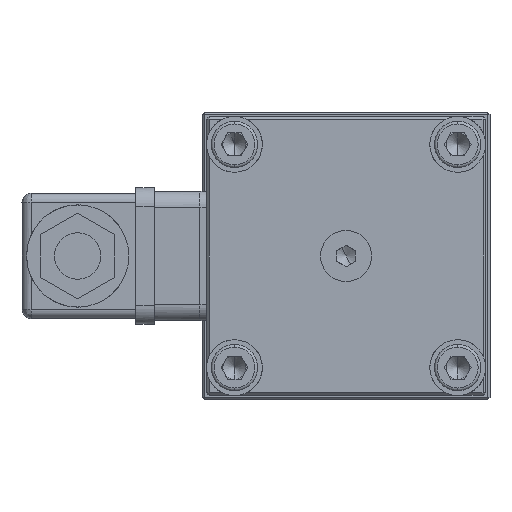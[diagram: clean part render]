
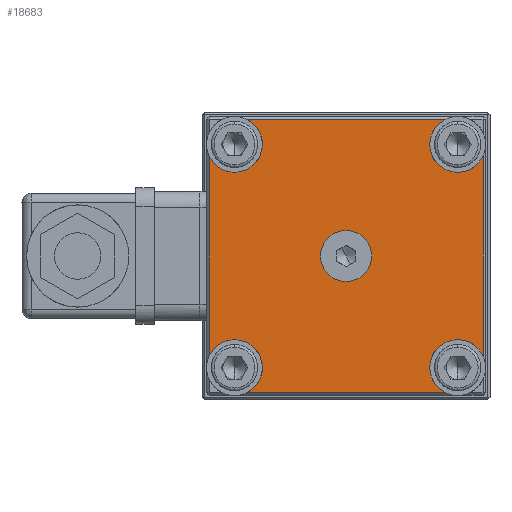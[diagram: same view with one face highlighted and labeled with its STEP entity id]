
A CAD part, left-side view. The second image highlights one B-rep face of the part: STEP entity #18683.
In plain terms, the highlighted planar face has unit normal (-1, 0, 0).
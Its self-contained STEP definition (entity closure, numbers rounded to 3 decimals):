
#25 = VERTEX_POINT ( 'NONE', #8928 ) ;
#187 = LINE ( 'NONE', #16267, #21332 ) ;
#210 = DIRECTION ( 'NONE',  ( 0., 0., -1. ) ) ;
#217 = CARTESIAN_POINT ( 'NONE',  ( -106.2, -24.04, 18.04 ) ) ;
#285 = CARTESIAN_POINT ( 'NONE',  ( -106.2, 24.04, 24.04 ) ) ;
#356 = ORIENTED_EDGE ( 'NONE', *, *, #21694, .T. ) ;
#649 = EDGE_CURVE ( 'NONE', #3649, #4505, #6441, .T. ) ;
#1730 = DIRECTION ( 'NONE',  ( 0., 0., 1. ) ) ;
#1840 = CARTESIAN_POINT ( 'NONE',  ( -106.2, 0., 0. ) ) ;
#2370 = ORIENTED_EDGE ( 'NONE', *, *, #19217, .T. ) ;
#2518 = DIRECTION ( 'NONE',  ( 1., 0., 0. ) ) ;
#2767 = VECTOR ( 'NONE', #14030, 1000. ) ;
#3153 = CARTESIAN_POINT ( 'NONE',  ( -106.2, 29.5, 21.552 ) ) ;
#3170 = EDGE_CURVE ( 'NONE', #4505, #20756, #12297, .T. ) ;
#3214 = EDGE_CURVE ( 'NONE', #3752, #18468, #17880, .T. ) ;
#3412 = AXIS2_PLACEMENT_3D ( 'NONE', #8630, #22681, #6894 ) ;
#3483 = DIRECTION ( 'NONE',  ( -1., 0., 0. ) ) ;
#3559 = AXIS2_PLACEMENT_3D ( 'NONE', #285, #16143, #7341 ) ;
#3649 = VERTEX_POINT ( 'NONE', #20442 ) ;
#3752 = VERTEX_POINT ( 'NONE', #10193 ) ;
#4019 = VERTEX_POINT ( 'NONE', #18275 ) ;
#4312 = ORIENTED_EDGE ( 'NONE', *, *, #13121, .T. ) ;
#4461 = ORIENTED_EDGE ( 'NONE', *, *, #21321, .F. ) ;
#4468 = CARTESIAN_POINT ( 'NONE',  ( -106.2, -24.04, -18.04 ) ) ;
#4505 = VERTEX_POINT ( 'NONE', #22247 ) ;
#4526 = DIRECTION ( 'NONE',  ( 0., 0., -1. ) ) ;
#4741 = ORIENTED_EDGE ( 'NONE', *, *, #3170, .T. ) ;
#5200 = CARTESIAN_POINT ( 'NONE',  ( -106.2, 24.04, 24.04 ) ) ;
#5323 = DIRECTION ( 'NONE',  ( 1., 0., 0. ) ) ;
#5557 = FACE_BOUND ( 'NONE', #13723, .T. ) ;
#5748 = CARTESIAN_POINT ( 'NONE',  ( -106.2, -24.04, 24.04 ) ) ;
#5875 = CARTESIAN_POINT ( 'NONE',  ( -106.2, -24.04, 24.04 ) ) ;
#5878 = CIRCLE ( 'NONE', #18058, 6. ) ;
#6072 = AXIS2_PLACEMENT_3D ( 'NONE', #11079, #21703, #18160 ) ;
#6441 = CIRCLE ( 'NONE', #6072, 6. ) ;
#6662 = ORIENTED_EDGE ( 'NONE', *, *, #19692, .T. ) ;
#6738 = CIRCLE ( 'NONE', #3412, 6. ) ;
#6837 = AXIS2_PLACEMENT_3D ( 'NONE', #19287, #3483, #1730 ) ;
#6894 = DIRECTION ( 'NONE',  ( 0., 0., -1. ) ) ;
#7183 = CARTESIAN_POINT ( 'NONE',  ( -106.2, -2.75, -4.763 ) ) ;
#7341 = DIRECTION ( 'NONE',  ( 0., 0., -1. ) ) ;
#7381 = DIRECTION ( 'NONE',  ( 0., 0., 1. ) ) ;
#7531 = CIRCLE ( 'NONE', #17487, 5.5 ) ;
#7648 = EDGE_CURVE ( 'NONE', #15779, #4019, #22204, .T. ) ;
#8136 = CARTESIAN_POINT ( 'NONE',  ( -106.2, 29.5, -21.552 ) ) ;
#8630 = CARTESIAN_POINT ( 'NONE',  ( -106.2, -24.04, -24.04 ) ) ;
#8907 = DIRECTION ( 'NONE',  ( -1., 0., 0. ) ) ;
#8928 = CARTESIAN_POINT ( 'NONE',  ( -106.2, 21.552, 29.5 ) ) ;
#9591 = CARTESIAN_POINT ( 'NONE',  ( -106.2, -21.552, -29.5 ) ) ;
#10071 = EDGE_LOOP ( 'NONE', ( #4741, #356, #10460, #6662, #16655, #10909, #4312, #16868, #2370, #20248, #19056, #11676 ) ) ;
#10193 = CARTESIAN_POINT ( 'NONE',  ( -106.2, -29.5, 21.552 ) ) ;
#10357 = DIRECTION ( 'NONE',  ( 0., 0., -1. ) ) ;
#10460 = ORIENTED_EDGE ( 'NONE', *, *, #16234, .T. ) ;
#10615 = DIRECTION ( 'NONE',  ( 1., 0., 0. ) ) ;
#10647 = CARTESIAN_POINT ( 'NONE',  ( -106.2, 0., 0. ) ) ;
#10759 = VECTOR ( 'NONE', #7381, 1000. ) ;
#10909 = ORIENTED_EDGE ( 'NONE', *, *, #13175, .T. ) ;
#11079 = CARTESIAN_POINT ( 'NONE',  ( -106.2, 24.04, -24.04 ) ) ;
#11298 = AXIS2_PLACEMENT_3D ( 'NONE', #5200, #5323, #20891 ) ;
#11448 = CARTESIAN_POINT ( 'NONE',  ( -106.2, 29.5, 29.5 ) ) ;
#11676 = ORIENTED_EDGE ( 'NONE', *, *, #649, .T. ) ;
#11794 = VERTEX_POINT ( 'NONE', #3153 ) ;
#12033 = CIRCLE ( 'NONE', #11298, 6. ) ;
#12297 = LINE ( 'NONE', #22675, #2767 ) ;
#12576 = FACE_OUTER_BOUND ( 'NONE', #10071, .T. ) ;
#12714 = AXIS2_PLACEMENT_3D ( 'NONE', #22441, #15577, #10357 ) ;
#13034 = LINE ( 'NONE', #14666, #10759 ) ;
#13121 = EDGE_CURVE ( 'NONE', #14211, #25, #187, .T. ) ;
#13175 = EDGE_CURVE ( 'NONE', #18468, #14211, #5878, .T. ) ;
#13251 = VERTEX_POINT ( 'NONE', #4468 ) ;
#13723 = EDGE_LOOP ( 'NONE', ( #4461, #15375 ) ) ;
#13887 = CARTESIAN_POINT ( 'NONE',  ( -106.2, -21.552, 29.5 ) ) ;
#14030 = DIRECTION ( 'NONE',  ( 0., -1., 0. ) ) ;
#14044 = DIRECTION ( 'NONE',  ( 0., 1., 0. ) ) ;
#14211 = VERTEX_POINT ( 'NONE', #13887 ) ;
#14225 = DIRECTION ( 'NONE',  ( 0., 0.5, 0.866 ) ) ;
#14553 = CIRCLE ( 'NONE', #17867, 6. ) ;
#14666 = CARTESIAN_POINT ( 'NONE',  ( -106.2, -29.5, -29.5 ) ) ;
#15375 = ORIENTED_EDGE ( 'NONE', *, *, #7648, .F. ) ;
#15577 = DIRECTION ( 'NONE',  ( 1., 0., 0. ) ) ;
#15779 = VERTEX_POINT ( 'NONE', #7183 ) ;
#15889 = VERTEX_POINT ( 'NONE', #16256 ) ;
#15970 = VERTEX_POINT ( 'NONE', #8136 ) ;
#16143 = DIRECTION ( 'NONE',  ( 1., 0., 0. ) ) ;
#16234 = EDGE_CURVE ( 'NONE', #13251, #21881, #6738, .T. ) ;
#16256 = CARTESIAN_POINT ( 'NONE',  ( -106.2, 24.04, 18.04 ) ) ;
#16267 = CARTESIAN_POINT ( 'NONE',  ( -106.2, -29.5, 29.5 ) ) ;
#16598 = DIRECTION ( 'NONE',  ( 1., 0., 0. ) ) ;
#16655 = ORIENTED_EDGE ( 'NONE', *, *, #3214, .T. ) ;
#16868 = ORIENTED_EDGE ( 'NONE', *, *, #22319, .T. ) ;
#17487 = AXIS2_PLACEMENT_3D ( 'NONE', #10647, #17706, #14225 ) ;
#17509 = AXIS2_PLACEMENT_3D ( 'NONE', #1840, #8907, #17917 ) ;
#17706 = DIRECTION ( 'NONE',  ( -1., 0., 0. ) ) ;
#17865 = DIRECTION ( 'NONE',  ( 0., 0., -1. ) ) ;
#17867 = AXIS2_PLACEMENT_3D ( 'NONE', #17905, #10615, #210 ) ;
#17880 = CIRCLE ( 'NONE', #22628, 6. ) ;
#17905 = CARTESIAN_POINT ( 'NONE',  ( -106.2, 24.04, -24.04 ) ) ;
#17917 = DIRECTION ( 'NONE',  ( 0., 0.5, 0.866 ) ) ;
#17961 = CIRCLE ( 'NONE', #3559, 6. ) ;
#18058 = AXIS2_PLACEMENT_3D ( 'NONE', #5875, #2518, #21653 ) ;
#18160 = DIRECTION ( 'NONE',  ( 0., 0., -1. ) ) ;
#18275 = CARTESIAN_POINT ( 'NONE',  ( -106.2, 2.75, 4.763 ) ) ;
#18314 = EDGE_CURVE ( 'NONE', #11794, #15970, #20194, .T. ) ;
#18468 = VERTEX_POINT ( 'NONE', #217 ) ;
#18683 = ADVANCED_FACE ( 'NONE', ( #5557, #12576 ), #20999, .T. ) ;
#19056 = ORIENTED_EDGE ( 'NONE', *, *, #21599, .T. ) ;
#19140 = CARTESIAN_POINT ( 'NONE',  ( -106.2, -29.5, -21.552 ) ) ;
#19217 = EDGE_CURVE ( 'NONE', #15889, #11794, #17961, .T. ) ;
#19287 = CARTESIAN_POINT ( 'NONE',  ( -106.2, 0., 0. ) ) ;
#19692 = EDGE_CURVE ( 'NONE', #21881, #3752, #13034, .T. ) ;
#20055 = VECTOR ( 'NONE', #4526, 1000. ) ;
#20194 = LINE ( 'NONE', #11448, #20055 ) ;
#20248 = ORIENTED_EDGE ( 'NONE', *, *, #18314, .T. ) ;
#20442 = CARTESIAN_POINT ( 'NONE',  ( -106.2, 24.04, -18.04 ) ) ;
#20756 = VERTEX_POINT ( 'NONE', #9591 ) ;
#20891 = DIRECTION ( 'NONE',  ( 0., 0., -1. ) ) ;
#20999 = PLANE ( 'NONE',  #6837 ) ;
#21321 = EDGE_CURVE ( 'NONE', #4019, #15779, #7531, .T. ) ;
#21332 = VECTOR ( 'NONE', #14044, 1000. ) ;
#21599 = EDGE_CURVE ( 'NONE', #15970, #3649, #14553, .T. ) ;
#21653 = DIRECTION ( 'NONE',  ( 0., 0., -1. ) ) ;
#21694 = EDGE_CURVE ( 'NONE', #20756, #13251, #22631, .T. ) ;
#21703 = DIRECTION ( 'NONE',  ( 1., 0., 0. ) ) ;
#21881 = VERTEX_POINT ( 'NONE', #19140 ) ;
#22204 = CIRCLE ( 'NONE', #17509, 5.5 ) ;
#22247 = CARTESIAN_POINT ( 'NONE',  ( -106.2, 21.552, -29.5 ) ) ;
#22319 = EDGE_CURVE ( 'NONE', #25, #15889, #12033, .T. ) ;
#22441 = CARTESIAN_POINT ( 'NONE',  ( -106.2, -24.04, -24.04 ) ) ;
#22628 = AXIS2_PLACEMENT_3D ( 'NONE', #5748, #16598, #17865 ) ;
#22631 = CIRCLE ( 'NONE', #12714, 6. ) ;
#22675 = CARTESIAN_POINT ( 'NONE',  ( -106.2, 29.5, -29.5 ) ) ;
#22681 = DIRECTION ( 'NONE',  ( 1., 0., 0. ) ) ;
